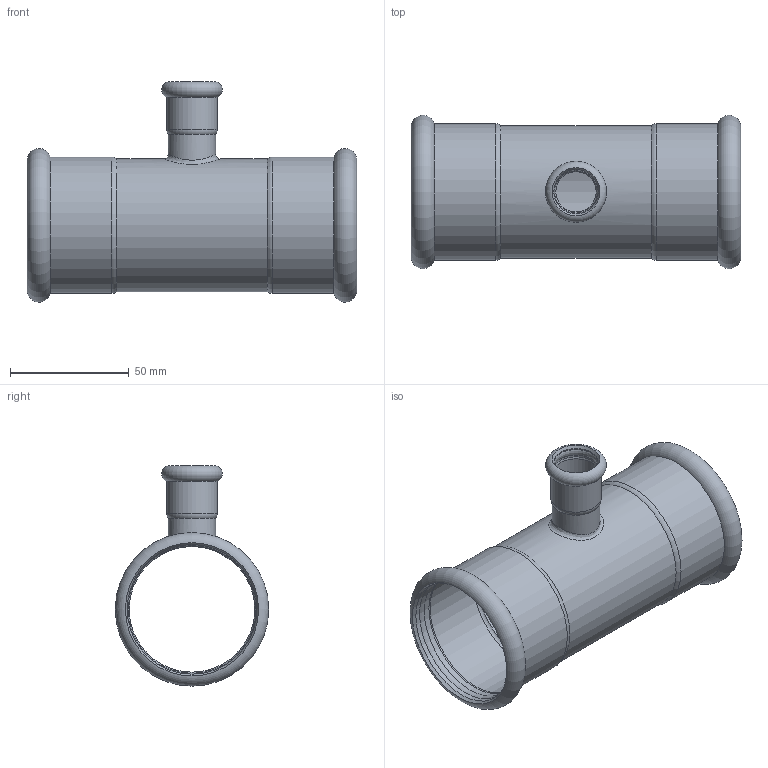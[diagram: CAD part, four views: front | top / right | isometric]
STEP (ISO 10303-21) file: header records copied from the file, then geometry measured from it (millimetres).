
FILE_DESCRIPTION(/* description */ ('TEE RIDOTTO 54-18-54'),/* implementation_level */ '2;1');
FILE_NAME(/* name */ 'R:\Disegni3D_Area_Manager\Inoxpres.step\192_INOXPRES\192054018_Inoxpres.stp',/* time_stamp */ '2022-10-12T11:32:25+02:00',/* author */ ('Vault'),/* organization */ ('Raccorderie metalliche s.p.a. '),/* preprocessor_version */ 'ST-DEVELOPER v18.1',/* originating_system */ 'Autodesk Inventor 2020',/* authorisation */ 'Raccorderie metalliche s.p.a. ');
FILE_SCHEMA (('AUTOMOTIVE_DESIGN { 1 0 10303 214 3 1 1 }'));
Length unit declared in the file: millimetre
Products named in the file (1): 192054018_Inoxpres
Bounding box: 139 x 64.76 x 92.88 mm (x, y, z)
Volume: 49069.6 mm3; surface area: 54117.1 mm2
Topology: 1 solids, 1 shells, 38 faces, 136 edges, 99 vertices
Faces by surface type: cylinder 17, torus 15, cone 3, bspline 2, plane 1
Full cylindrical faces by diameter (mm): 17 x1, 17.6 x1, 18.3 x1, 18.7 x2, 20 x1, 21.3 x1, 53 x1, 54.5 x2, 54.7 x4, 56 x1, 57.5 x2
Entity records: 1891 total; most frequent: CARTESIAN_POINT 550, DIRECTION 316, ORIENTED_EDGE 276, AXIS2_PLACEMENT_3D 147, EDGE_CURVE 138, CIRCLE 110, VERTEX_POINT 101, EDGE_LOOP 41
